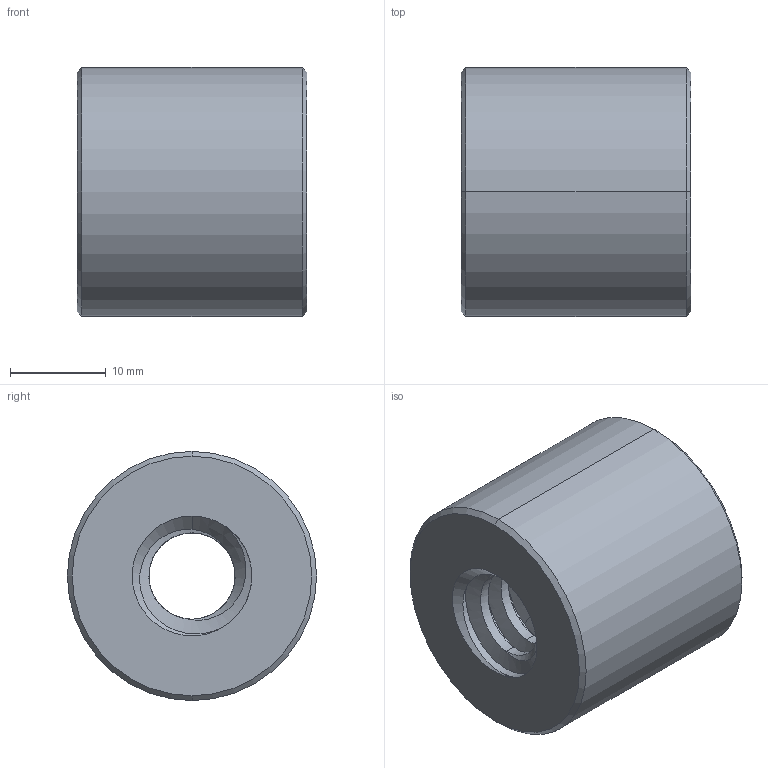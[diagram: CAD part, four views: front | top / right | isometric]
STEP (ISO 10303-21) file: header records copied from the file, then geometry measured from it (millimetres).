
FILE_DESCRIPTION((''),'2;1');
FILE_NAME('711-012-6000_PRT','2024-03-23T',('Brieden'),('ib-brieden'),'PRO/ENGINEER BY PARAMETRIC TECHNOLOGY CORPORATION, 2010160','PRO/ENGINEER BY PARAMETRIC TECHNOLOGY CORPORATION, 2010160','');
FILE_SCHEMA(('AUTOMOTIVE_DESIGN { 1 0 10303 214 1 1 1 1 }'));
Length unit declared in the file: millimetre
Products named in the file (1): 711-012-6000_PRT
Bounding box: 24 x 26 x 26 mm (x, y, z)
Volume: 10483.8 mm3; surface area: 4247.1 mm2
Topology: 1 solids, 1 shells, 35 faces, 87 edges, 54 vertices
Faces by surface type: cylinder 16, bspline 9, cone 8, plane 2
Entity records: 3390 total; most frequent: CARTESIAN_POINT 2600, ORIENTED_EDGE 174, DIRECTION 109, EDGE_CURVE 87, VERTEX_POINT 54, B_SPLINE_CURVE_WITH_KNOTS 45, AXIS2_PLACEMENT_3D 41, EDGE_LOOP 37
